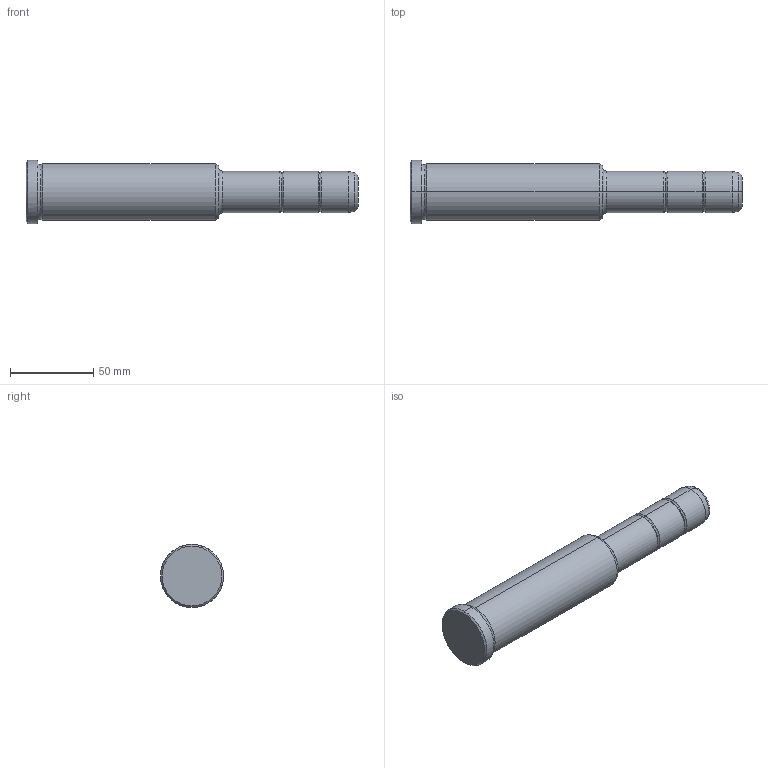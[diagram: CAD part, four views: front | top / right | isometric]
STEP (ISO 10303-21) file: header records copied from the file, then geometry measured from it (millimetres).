
FILE_DESCRIPTION(('CATIA V5 STEP Exchange'),'2;1');
FILE_NAME('C:\Users\Utente\Desktop\IO LAVORO\3D X SITO CF\X SITO\PLASTICA\351\351-25X116X200.stp','2021-09-07T11:54:03+00:00',('none'),('none'),'CATIA Version 5 Release 20 GA (IN-10)','CATIA V5 STEP AP203','none');
FILE_SCHEMA(('CONFIG_CONTROL_DESIGN'));
Length unit declared in the file: millimetre
Products named in the file (1): 351-25X116X200
Bounding box: 200 x 38 x 38 mm (x, y, z)
Volume: 147346.5 mm3; surface area: 21034 mm2
Topology: 1 solids, 1 shells, 36 faces, 102 edges, 70 vertices
Faces by surface type: torus 16, cylinder 10, cone 6, plane 4
Entity records: 1292 total; most frequent: CARTESIAN_POINT 321, ORIENTED_EDGE 204, DIRECTION 166, AXIS2_PLACEMENT_3D 115, EDGE_CURVE 102, CIRCLE 78, VERTEX_POINT 70, EDGE_LOOP 38
